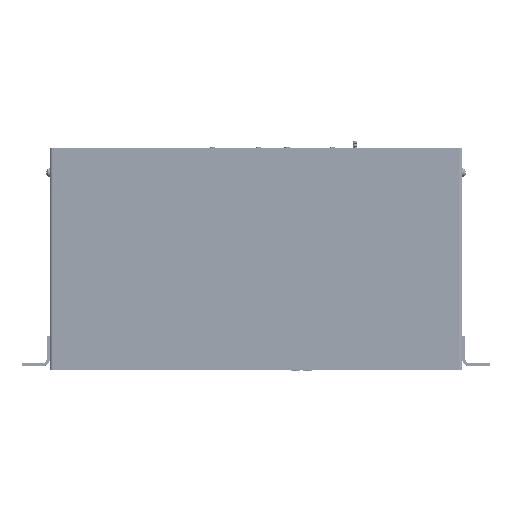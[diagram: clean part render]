
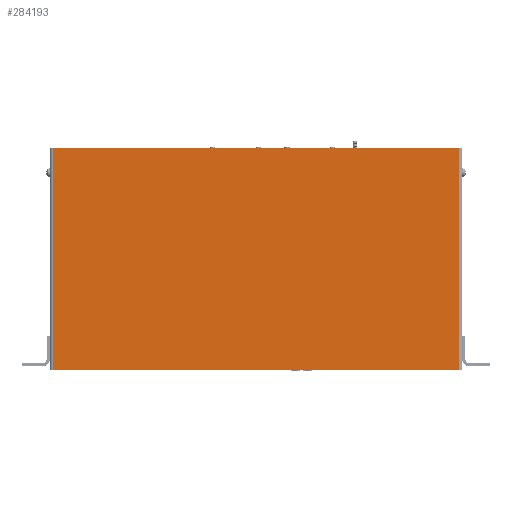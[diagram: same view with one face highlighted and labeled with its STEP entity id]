
A CAD part, top view. The second image highlights one B-rep face of the part: STEP entity #284193.
In plain terms, the highlighted planar face has unit normal (0, 0, 1).
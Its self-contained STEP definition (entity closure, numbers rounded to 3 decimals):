
#24702=PLANE('',#300332);
#34065=FACE_OUTER_BOUND('',#48647,.T.);
#48647=EDGE_LOOP('',(#216057,#216058,#216059,#216060));
#80053=LINE('',#427169,#107812);
#80058=LINE('',#427185,#107817);
#80068=LINE('',#427212,#107827);
#80071=LINE('',#427217,#107830);
#107812=VECTOR('',#328399,10.);
#107817=VECTOR('',#328414,10.);
#107827=VECTOR('',#328446,10.);
#107830=VECTOR('',#328453,10.);
#135511=VERTEX_POINT('',#427166);
#135512=VERTEX_POINT('',#427168);
#135517=VERTEX_POINT('',#427182);
#135518=VERTEX_POINT('',#427184);
#166882=EDGE_CURVE('',#135512,#135511,#80053,.T.);
#166890=EDGE_CURVE('',#135518,#135517,#80058,.T.);
#166905=EDGE_CURVE('',#135512,#135517,#80068,.T.);
#166908=EDGE_CURVE('',#135518,#135511,#80071,.T.);
#216057=ORIENTED_EDGE('',*,*,#166905,.F.);
#216058=ORIENTED_EDGE('',*,*,#166882,.T.);
#216059=ORIENTED_EDGE('',*,*,#166908,.F.);
#216060=ORIENTED_EDGE('',*,*,#166890,.T.);
#284193=ADVANCED_FACE('',(#34065),#24702,.T.);
#300332=AXIS2_PLACEMENT_3D('',#427220,#328458,#328459);
#328399=DIRECTION('',(1.,0.,0.));
#328414=DIRECTION('',(-1.,0.,0.));
#328446=DIRECTION('',(0.,1.,0.));
#328453=DIRECTION('',(0.,-1.,0.));
#328458=DIRECTION('center_axis',(0.,0.,1.));
#328459=DIRECTION('ref_axis',(1.,0.,0.));
#427166=CARTESIAN_POINT('',(420.903,0.,0.));
#427168=CARTESIAN_POINT('',(1.524,0.,0.));
#427169=CARTESIAN_POINT('',(-1.524,0.,0.));
#427182=CARTESIAN_POINT('',(1.524,228.6,0.));
#427184=CARTESIAN_POINT('',(420.903,228.6,0.));
#427185=CARTESIAN_POINT('',(423.951,228.6,0.));
#427212=CARTESIAN_POINT('',(1.524,57.15,0.));
#427217=CARTESIAN_POINT('',(420.903,171.45,0.));
#427220=CARTESIAN_POINT('Origin',(211.214,114.3,0.));
